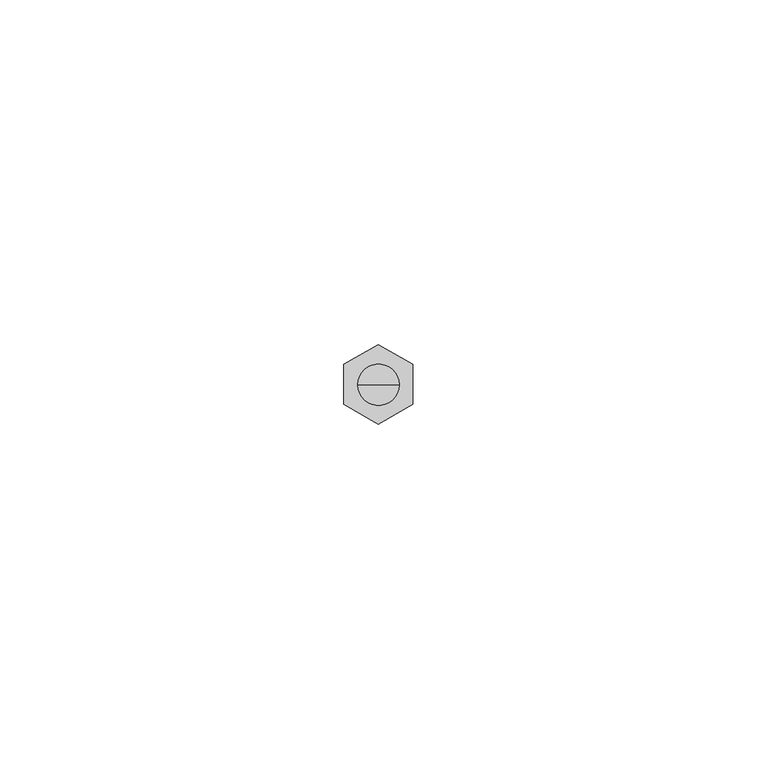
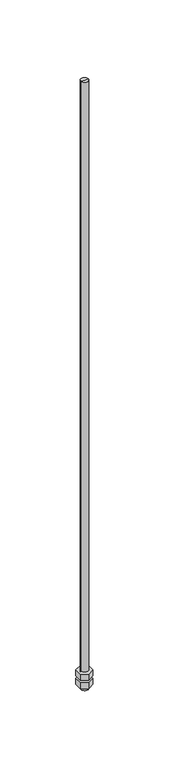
"""IFC4 building model written with IfcOpenShell, lengths in millimetres: proxy geometry, durlum_threaded_rod_M6 : durlum_threaded_rod_M6."""

from ifc_helpers import new_model, si_unit, frame, origin, origin_with_axes, place, context, project, spatial, polyline, circle_curve, outline, extrude, source, transform, mapped, element, save
from ifc_brep_helpers import plane_surface, cylinder_surface, advanced_brep


def generic_models_413290ff(model_context):
    return source(origin(), model_context, "Body", "SolidModel", [
        extrude(outline(polyline([(5.0, 3.0421914), (5.0, -2.7313113), (0.0, -5.6180626), (-5.0, -2.7313113), (-5.0, 3.0421914), (0.0, 5.9289428), (5.0, 3.0421914)])), frame((0.0, 0.0, -7.0), z_axis=(0.0, 0.0, 1.0), x_axis=(1.0, 0.0, 0.0)), (0.0, 0.0, 1.0), 5.0),
        extrude(outline(polyline([(5.0, 3.0421914), (5.0, -2.7313113), (0.0, -5.6180626), (-5.0, -2.7313113), (-5.0, 3.0421914), (0.0, 5.9289428), (5.0, 3.0421914)])), origin_with_axes(), (0.0, 0.0, 1.0), 5.0),
        advanced_brep(
        [(-3.0, 0.0, 493.0371849), (3.0, 0.0, 493.0371849), (3.0, 0.0, -10.0), (-3.0, 0.0, -10.0), (0.0, 0.0, 493.0371849), (0.0, 0.0, -10.0)],
        [
            (0, 1, circle_curve(frame((0.0, 0.0, 493.0371849), z_axis=(0.0, 0.0, -1.0), x_axis=(1.0, 0.0, 0.0)), 3.0)),
            (1, 2),
            (2, 3, circle_curve(frame((0.0, 0.0, -10.0), z_axis=(0.0, 0.0, 1.0), x_axis=(1.0, 0.0, 0.0)), 3.0)),
            (3, 0),
            (1, 0, circle_curve(frame((0.0, 0.0, 493.0371849), z_axis=(0.0, 0.0, -1.0), x_axis=(1.0, 0.0, 0.0)), 3.0)),
            (3, 2, circle_curve(frame((0.0, 0.0, -10.0), z_axis=(0.0, 0.0, 1.0), x_axis=(1.0, 0.0, 0.0)), 3.0)),
            (4, 1),
            (0, 4),
            (2, 5),
            (5, 3),
        ],
        [
            cylinder_surface(frame((0.0, 0.0, -675.0), z_axis=(0.0, 0.0, 1.0), x_axis=(1.0, 0.0, 0.0)), 3.0),
            plane_surface(frame((0.0, 0.0, 493.0371849), z_axis=(0.0, 0.0, 1.0), x_axis=(1.0, 0.0, 0.0))),
            plane_surface(frame((0.0, 0.0, -10.0), z_axis=(0.0, 0.0, -1.0), x_axis=(1.0, 0.0, 0.0))),
        ],
        [
            (0, [[1, 2, 3, 4]]),
            (0, [[5, -4, 6, -2]]),
            (1, [[7, -1, 8]]),
            (1, [[-8, -5, -7]]),
            (2, [[-3, 9, 10]]),
            (2, [[-6, -10, -9]]),
        ],
    ),
    ])


if __name__ == "__main__":
    model = new_model("IFC4")
    model_context = context("Model", 3, world=origin())
    ifc_project = project(units=[si_unit("LENGTHUNIT", "METRE", prefix="MILLI")], contexts=[model_context])
    site = spatial("IfcSite", under=ifc_project)
    building = spatial("IfcBuilding", under=site)
    placement = place(None, origin())
    generic_models_shape = generic_models_413290ff(model_context)
    element("IfcBuildingElementProxy", 1, Name="durlum_threaded_rod_M6 : durlum_threaded_rod_M6", ObjectType="durlum_threaded_rod_M6 : durlum_threaded_rod_M6", at=placement, inside=building, context=model_context, shape_type="MappedRepresentation", body=[
        mapped(generic_models_shape, transform((0.0, 0.0, 0.0), x_axis=(1.0, 0.0, 0.0), y_axis=(0.0, 1.0, 0.0), z_axis=(0.0, 0.0, 1.0))),
    ])
    save(model, "model.ifc")
